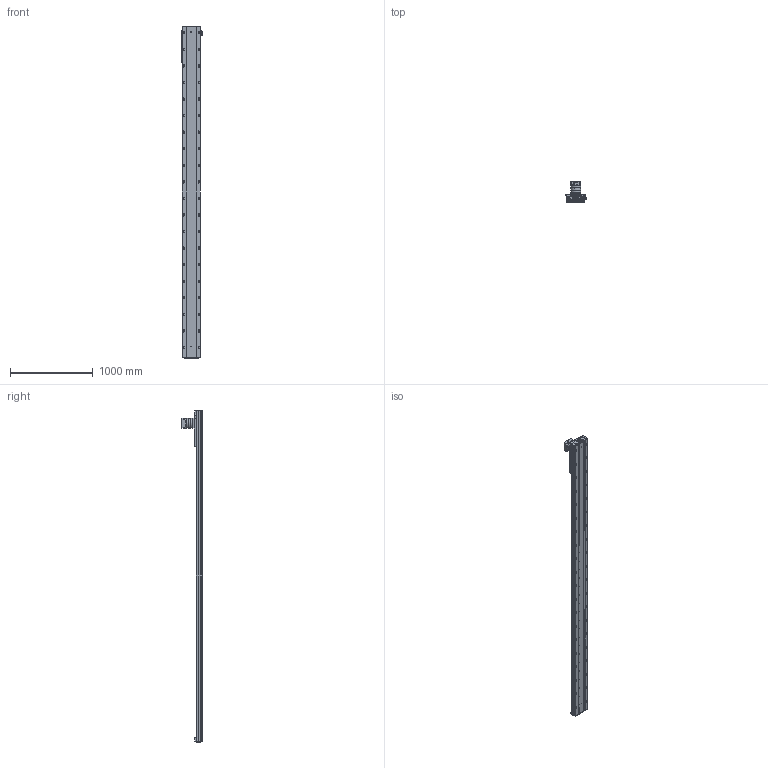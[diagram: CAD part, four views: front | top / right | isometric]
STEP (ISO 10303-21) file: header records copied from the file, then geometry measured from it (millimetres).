
FILE_DESCRIPTION (( 'STEP AP203' ), '1' );
FILE_NAME ('RY220-C-300-UK.SLDASM_3500.step', '2022-08-01T06:01:07', ( '' ), ( '' ), 'SwSTEP 2.0', 'SolidWorks 2016', '' );
FILE_SCHEMA (( 'CONFIG_CONTROL_DESIGN' ));
Length unit declared in the file: millimetre
Products named in the file (10): PF115L1-S2-22-58-110-145-M8; RY220-C-300-UK.SLDASM_3500; 覜茼ん674; RY220菁釱MK-300_3500; RY220喘沭俋离覜茼え; 滅袉蝶輸ㄗG412隅秶ㄘ; RY220喘沭賑輸; RY220-齿条模组电机安装板; RY140直线电机感应器674光电安装座; RY220喘沭綴裔啣
Assembly tree (12 placements, depth 2):
  RY220-C-300-UK.SLDASM_3500
    RY220菁釱MK-300_3500
    RY220喘沭賑輸
    RY220-齿条模组电机安装板
    PF115L1-S2-22-58-110-145-M8
    RY220喘沭綴裔啣  x2
    滅袉蝶輸ㄗG412隅秶ㄘ  x2
    RY140直线电机感应器674光电安装座
    覜茼ん674  x2
    RY220喘沭俋离覜茼え
Bounding box: 247 x 244.5 x 4009 mm (x, y, z)
Volume: 25850414.3 mm3; surface area: 5373143.4 mm2
Topology: 18 solids, 26 shells, 2554 faces, 6895 edges, 4268 vertices
Faces by surface type: cylinder 1273, plane 751, cone 368, bspline 162
Entity records: 81357 total; most frequent: CARTESIAN_POINT 21902, DIRECTION 12375, ORIENTED_EDGE 11954, EDGE_CURVE 5977, AXIS2_PLACEMENT_3D 4769, VERTEX_POINT 3894, EDGE_LOOP 3035, LINE 2837
